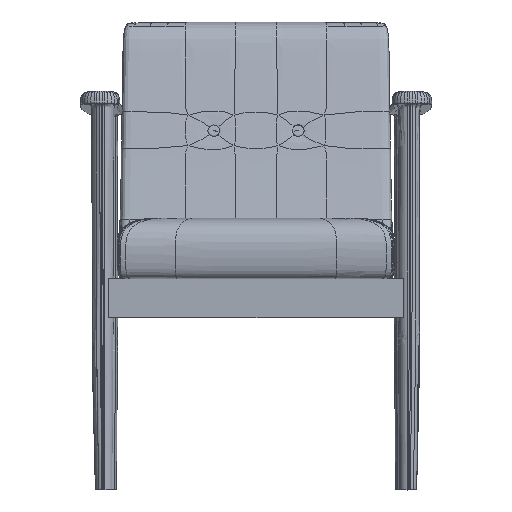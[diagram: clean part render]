
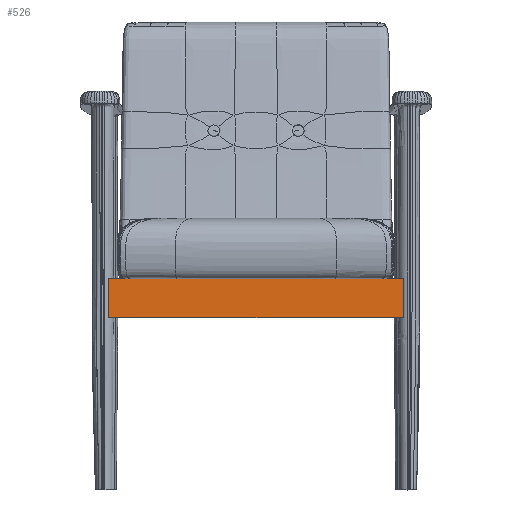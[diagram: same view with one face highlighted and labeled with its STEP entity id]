
A CAD part, front view. The second image highlights one B-rep face of the part: STEP entity #526.
In plain terms, the highlighted free-form (B-spline) face has degree [3, 3] with [4, 4] control points.
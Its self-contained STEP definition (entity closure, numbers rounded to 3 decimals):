
#526=ADVANCED_FACE('',(#1033),#7789,.T.);
#1033=FACE_OUTER_BOUND('',#1540,.T.);
#1540=EDGE_LOOP('',(#4000,#4001,#4002,#4003));
#4000=ORIENTED_EDGE('',*,*,#5275,.F.);
#4001=ORIENTED_EDGE('',*,*,#5265,.F.);
#4002=ORIENTED_EDGE('',*,*,#5276,.T.);
#4003=ORIENTED_EDGE('',*,*,#5282,.F.);
#5265=EDGE_CURVE('',#7281,#7280,#6514,.T.);
#5275=EDGE_CURVE('',#7280,#7290,#6524,.T.);
#5276=EDGE_CURVE('',#7281,#7291,#6525,.T.);
#5282=EDGE_CURVE('',#7290,#7291,#6531,.T.);
#6514=B_SPLINE_CURVE_WITH_KNOTS('',3,(#121726,#121727,#121728,#121729,#121730,
#121731,#121732),.UNSPECIFIED.,.F.,.F.,(4,3,4),(0.,22.576,65.016),
 .UNSPECIFIED.);
#6524=B_SPLINE_CURVE_WITH_KNOTS('',3,(#121886,#121887,#121888,#121889),
 .UNSPECIFIED.,.F.,.F.,(4,4),(-0.986,-0.016),
 .UNSPECIFIED.);
#6525=B_SPLINE_CURVE_WITH_KNOTS('',3,(#121890,#121891,#121892,#121893),
 .UNSPECIFIED.,.F.,.F.,(4,4),(-0.986,-0.016),
 .UNSPECIFIED.);
#6531=B_SPLINE_CURVE_WITH_KNOTS('',3,(#121950,#121951,#121952,#121953,#121954,
#121955,#121956),.UNSPECIFIED.,.F.,.F.,(4,3,4),(0.,42.44,65.016),
 .UNSPECIFIED.);
#7280=VERTEX_POINT('',#114288);
#7281=VERTEX_POINT('',#114289);
#7290=VERTEX_POINT('',#114298);
#7291=VERTEX_POINT('',#114299);
#7789=B_SPLINE_SURFACE_WITH_KNOTS('',3,3,((#113830,#113831,#113832,#113833),
(#113834,#113835,#113836,#113837),(#113838,#113839,#113840,#113841),(#113842,
#113843,#113844,#113845)),.UNSPECIFIED.,.F.,.F.,.F.,(4,4),(4,4),(0.,1.),
(0.,1.),.UNSPECIFIED.);
#113830=CARTESIAN_POINT('',(-252.078,-240.194,349.869));
#113831=CARTESIAN_POINT('',(-84.412,-240.194,349.869));
#113832=CARTESIAN_POINT('',(83.255,-240.194,349.869));
#113833=CARTESIAN_POINT('',(250.922,-240.194,349.869));
#113834=CARTESIAN_POINT('',(-252.078,-240.194,328.197));
#113835=CARTESIAN_POINT('',(-84.412,-240.194,328.197));
#113836=CARTESIAN_POINT('',(83.255,-240.194,328.197));
#113837=CARTESIAN_POINT('',(250.922,-240.194,328.197));
#113838=CARTESIAN_POINT('',(-252.078,-240.194,306.525));
#113839=CARTESIAN_POINT('',(-84.412,-240.194,306.525));
#113840=CARTESIAN_POINT('',(83.255,-240.194,306.525));
#113841=CARTESIAN_POINT('',(250.922,-240.194,306.524));
#113842=CARTESIAN_POINT('',(-252.078,-240.194,284.852));
#113843=CARTESIAN_POINT('',(-84.412,-240.194,284.852));
#113844=CARTESIAN_POINT('',(83.255,-240.194,284.852));
#113845=CARTESIAN_POINT('',(250.922,-240.194,284.852));
#114288=CARTESIAN_POINT('',(243.999,-240.194,284.852));
#114289=CARTESIAN_POINT('',(243.976,-240.194,349.869));
#114298=CARTESIAN_POINT('',(-243.999,-240.194,284.852));
#114299=CARTESIAN_POINT('',(-243.976,-240.194,349.869));
#121726=CARTESIAN_POINT('',(243.976,-240.194,349.869));
#121727=CARTESIAN_POINT('',(243.978,-240.194,342.343));
#121728=CARTESIAN_POINT('',(243.979,-240.194,334.818));
#121729=CARTESIAN_POINT('',(243.981,-240.194,327.293));
#121730=CARTESIAN_POINT('',(243.985,-240.194,313.146));
#121731=CARTESIAN_POINT('',(243.989,-240.194,298.999));
#121732=CARTESIAN_POINT('',(243.999,-240.194,284.852));
#121886=CARTESIAN_POINT('',(243.999,-240.194,284.852));
#121887=CARTESIAN_POINT('',(81.333,-240.194,284.852));
#121888=CARTESIAN_POINT('',(-81.333,-240.194,284.852));
#121889=CARTESIAN_POINT('',(-243.999,-240.194,284.852));
#121890=CARTESIAN_POINT('',(243.976,-240.194,349.869));
#121891=CARTESIAN_POINT('',(81.325,-240.194,349.869));
#121892=CARTESIAN_POINT('',(-81.325,-240.194,349.869));
#121893=CARTESIAN_POINT('',(-243.976,-240.194,349.869));
#121950=CARTESIAN_POINT('',(-243.999,-240.194,284.852));
#121951=CARTESIAN_POINT('',(-243.989,-240.194,298.999));
#121952=CARTESIAN_POINT('',(-243.985,-240.194,313.146));
#121953=CARTESIAN_POINT('',(-243.981,-240.194,327.293));
#121954=CARTESIAN_POINT('',(-243.979,-240.194,334.818));
#121955=CARTESIAN_POINT('',(-243.978,-240.194,342.343));
#121956=CARTESIAN_POINT('',(-243.976,-240.194,349.869));
